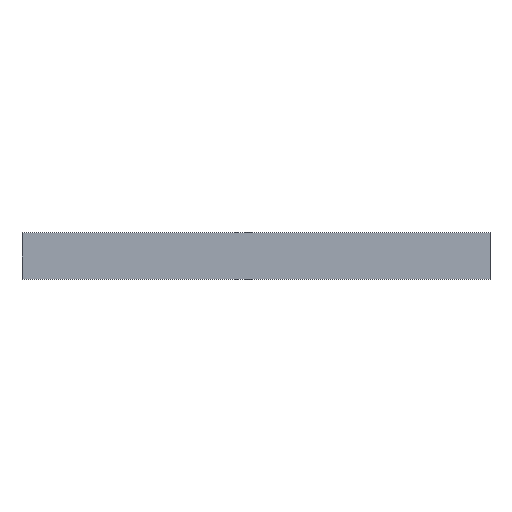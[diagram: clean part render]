
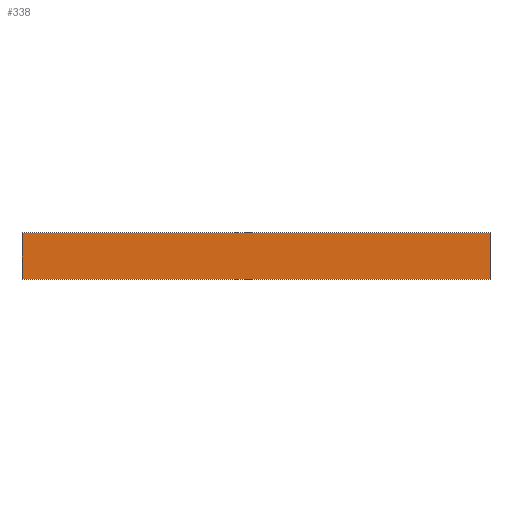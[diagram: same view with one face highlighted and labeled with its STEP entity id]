
A CAD part, top view. The second image highlights one B-rep face of the part: STEP entity #338.
In plain terms, the highlighted planar face has unit normal (0, 0, 1).
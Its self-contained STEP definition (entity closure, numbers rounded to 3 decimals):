
#24 = VERTEX_POINT('',#25);
#25 = CARTESIAN_POINT('',(1000.,-100.,8.));
#32 = PLANE('',#33);
#33 = AXIS2_PLACEMENT_3D('',#34,#35,#36);
#34 = CARTESIAN_POINT('',(1000.,-100.,0.));
#35 = DIRECTION('',(-0.,1.,-0.));
#36 = DIRECTION('',(1.,0.,0.));
#44 = PLANE('',#45);
#45 = AXIS2_PLACEMENT_3D('',#46,#47,#48);
#46 = CARTESIAN_POINT('',(1000.,100.,0.));
#47 = DIRECTION('',(-1.,-0.,-0.));
#48 = DIRECTION('',(0.,1.,0.));
#56 = EDGE_CURVE('',#24,#57,#59,.T.);
#57 = VERTEX_POINT('',#58);
#58 = CARTESIAN_POINT('',(-1000.,-100.,8.));
#59 = SURFACE_CURVE('',#60,(#64,#71),.PCURVE_S1.);
#60 = LINE('',#61,#62);
#61 = CARTESIAN_POINT('',(1000.,-100.,8.));
#62 = VECTOR('',#63,1.);
#63 = DIRECTION('',(-1.,-0.,-0.));
#64 = PCURVE('',#32,#65);
#65 = DEFINITIONAL_REPRESENTATION('',(#66),#70);
#66 = LINE('',#67,#68);
#67 = CARTESIAN_POINT('',(-0.,-8.));
#68 = VECTOR('',#69,1.);
#69 = DIRECTION('',(-1.,0.));
#70 = ( GEOMETRIC_REPRESENTATION_CONTEXT(2) 
PARAMETRIC_REPRESENTATION_CONTEXT() REPRESENTATION_CONTEXT('2D SPACE',''
  ) );
#71 = PCURVE('',#72,#77);
#72 = PLANE('',#73);
#73 = AXIS2_PLACEMENT_3D('',#74,#75,#76);
#74 = CARTESIAN_POINT('',(0.,0.,8.));
#75 = DIRECTION('',(-0.,-0.,1.));
#76 = DIRECTION('',(1.,0.,0.));
#77 = DEFINITIONAL_REPRESENTATION('',(#78),#82);
#78 = LINE('',#79,#80);
#79 = CARTESIAN_POINT('',(1000.,-100.));
#80 = VECTOR('',#81,1.);
#81 = DIRECTION('',(-1.,0.));
#82 = ( GEOMETRIC_REPRESENTATION_CONTEXT(2) 
PARAMETRIC_REPRESENTATION_CONTEXT() REPRESENTATION_CONTEXT('2D SPACE',''
  ) );
#100 = PLANE('',#101);
#101 = AXIS2_PLACEMENT_3D('',#102,#103,#104);
#102 = CARTESIAN_POINT('',(-1000.,-100.,0.));
#103 = DIRECTION('',(1.,-0.,-0.));
#104 = DIRECTION('',(0.,-1.,0.));
#142 = EDGE_CURVE('',#57,#143,#145,.T.);
#143 = VERTEX_POINT('',#144);
#144 = CARTESIAN_POINT('',(-1000.,100.,8.));
#145 = SURFACE_CURVE('',#146,(#150,#157),.PCURVE_S1.);
#146 = LINE('',#147,#148);
#147 = CARTESIAN_POINT('',(-1000.,-100.,8.));
#148 = VECTOR('',#149,1.);
#149 = DIRECTION('',(-0.,1.,-0.));
#150 = PCURVE('',#100,#151);
#151 = DEFINITIONAL_REPRESENTATION('',(#152),#156);
#152 = LINE('',#153,#154);
#153 = CARTESIAN_POINT('',(-0.,-8.));
#154 = VECTOR('',#155,1.);
#155 = DIRECTION('',(-1.,0.));
#156 = ( GEOMETRIC_REPRESENTATION_CONTEXT(2) 
PARAMETRIC_REPRESENTATION_CONTEXT() REPRESENTATION_CONTEXT('2D SPACE',''
  ) );
#157 = PCURVE('',#72,#158);
#158 = DEFINITIONAL_REPRESENTATION('',(#159),#163);
#159 = LINE('',#160,#161);
#160 = CARTESIAN_POINT('',(-1000.,-100.));
#161 = VECTOR('',#162,1.);
#162 = DIRECTION('',(-0.,1.));
#163 = ( GEOMETRIC_REPRESENTATION_CONTEXT(2) 
PARAMETRIC_REPRESENTATION_CONTEXT() REPRESENTATION_CONTEXT('2D SPACE',''
  ) );
#181 = PLANE('',#182);
#182 = AXIS2_PLACEMENT_3D('',#183,#184,#185);
#183 = CARTESIAN_POINT('',(-1000.,100.,0.));
#184 = DIRECTION('',(-0.,-1.,-0.));
#185 = DIRECTION('',(-1.,0.,0.));
#218 = EDGE_CURVE('',#143,#219,#221,.T.);
#219 = VERTEX_POINT('',#220);
#220 = CARTESIAN_POINT('',(1000.,100.,8.));
#221 = SURFACE_CURVE('',#222,(#226,#233),.PCURVE_S1.);
#222 = LINE('',#223,#224);
#223 = CARTESIAN_POINT('',(-1000.,100.,8.));
#224 = VECTOR('',#225,1.);
#225 = DIRECTION('',(1.,-0.,-0.));
#226 = PCURVE('',#181,#227);
#227 = DEFINITIONAL_REPRESENTATION('',(#228),#232);
#228 = LINE('',#229,#230);
#229 = CARTESIAN_POINT('',(-0.,-8.));
#230 = VECTOR('',#231,1.);
#231 = DIRECTION('',(-1.,0.));
#232 = ( GEOMETRIC_REPRESENTATION_CONTEXT(2) 
PARAMETRIC_REPRESENTATION_CONTEXT() REPRESENTATION_CONTEXT('2D SPACE',''
  ) );
#233 = PCURVE('',#72,#234);
#234 = DEFINITIONAL_REPRESENTATION('',(#235),#239);
#235 = LINE('',#236,#237);
#236 = CARTESIAN_POINT('',(-1000.,100.));
#237 = VECTOR('',#238,1.);
#238 = DIRECTION('',(1.,-0.));
#239 = ( GEOMETRIC_REPRESENTATION_CONTEXT(2) 
PARAMETRIC_REPRESENTATION_CONTEXT() REPRESENTATION_CONTEXT('2D SPACE',''
  ) );
#289 = EDGE_CURVE('',#219,#24,#290,.T.);
#290 = SURFACE_CURVE('',#291,(#295,#302),.PCURVE_S1.);
#291 = LINE('',#292,#293);
#292 = CARTESIAN_POINT('',(1000.,100.,8.));
#293 = VECTOR('',#294,1.);
#294 = DIRECTION('',(-0.,-1.,-0.));
#295 = PCURVE('',#44,#296);
#296 = DEFINITIONAL_REPRESENTATION('',(#297),#301);
#297 = LINE('',#298,#299);
#298 = CARTESIAN_POINT('',(-0.,-8.));
#299 = VECTOR('',#300,1.);
#300 = DIRECTION('',(-1.,0.));
#301 = ( GEOMETRIC_REPRESENTATION_CONTEXT(2) 
PARAMETRIC_REPRESENTATION_CONTEXT() REPRESENTATION_CONTEXT('2D SPACE',''
  ) );
#302 = PCURVE('',#72,#303);
#303 = DEFINITIONAL_REPRESENTATION('',(#304),#308);
#304 = LINE('',#305,#306);
#305 = CARTESIAN_POINT('',(1000.,100.));
#306 = VECTOR('',#307,1.);
#307 = DIRECTION('',(-0.,-1.));
#308 = ( GEOMETRIC_REPRESENTATION_CONTEXT(2) 
PARAMETRIC_REPRESENTATION_CONTEXT() REPRESENTATION_CONTEXT('2D SPACE',''
  ) );
#338 = ADVANCED_FACE('',(#339),#72,.T.);
#339 = FACE_BOUND('',#340,.F.);
#340 = EDGE_LOOP('',(#341,#342,#343,#344));
#341 = ORIENTED_EDGE('',*,*,#56,.T.);
#342 = ORIENTED_EDGE('',*,*,#142,.T.);
#343 = ORIENTED_EDGE('',*,*,#218,.T.);
#344 = ORIENTED_EDGE('',*,*,#289,.T.);
